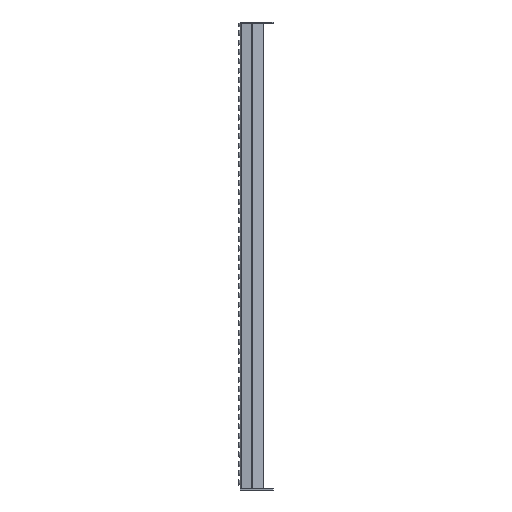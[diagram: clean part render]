
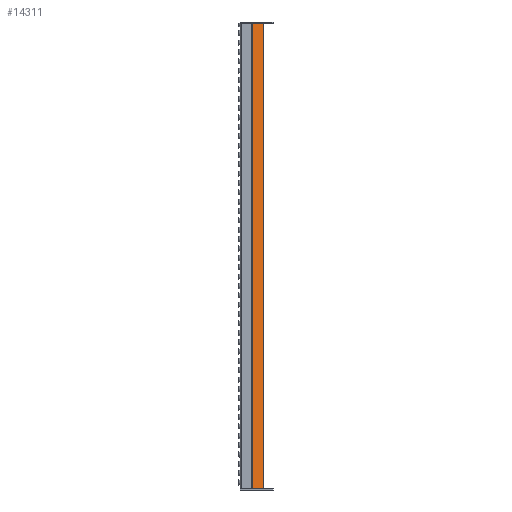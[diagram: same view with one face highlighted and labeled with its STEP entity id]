
A CAD part, left-side view. The second image highlights one B-rep face of the part: STEP entity #14311.
In plain terms, the highlighted planar face has unit normal (-0.94, -0.342, 0).
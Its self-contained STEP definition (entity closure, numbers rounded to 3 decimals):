
#2134=FACE_OUTER_BOUND('',#3285,.T.);
#3285=EDGE_LOOP('',(#12278,#12279,#12280,#12281));
#4336=LINE('',#27406,#5660);
#4355=LINE('',#27453,#5679);
#4357=LINE('',#27459,#5681);
#4361=LINE('',#27466,#5685);
#5660=VECTOR('',#19171,10.);
#5679=VECTOR('',#19214,10.);
#5681=VECTOR('',#19220,10.);
#5685=VECTOR('',#19228,10.);
#7118=VERTEX_POINT('',#27403);
#7119=VERTEX_POINT('',#27405);
#7135=VERTEX_POINT('',#27452);
#7137=VERTEX_POINT('',#27458);
#8871=EDGE_CURVE('',#7119,#7118,#4336,.T.);
#8895=EDGE_CURVE('',#7118,#7135,#4355,.T.);
#8898=EDGE_CURVE('',#7137,#7119,#4357,.T.);
#8902=EDGE_CURVE('',#7135,#7137,#4361,.T.);
#12278=ORIENTED_EDGE('',*,*,#8895,.T.);
#12279=ORIENTED_EDGE('',*,*,#8902,.T.);
#12280=ORIENTED_EDGE('',*,*,#8898,.T.);
#12281=ORIENTED_EDGE('',*,*,#8871,.T.);
#13382=PLANE('',#15792);
#14311=ADVANCED_FACE('',(#2134),#13382,.T.);
#15792=AXIS2_PLACEMENT_3D('',#27465,#19226,#19227);
#19171=DIRECTION('',(-0.342,0.94,0.));
#19214=DIRECTION('',(0.,0.,-1.));
#19220=DIRECTION('',(0.,0.,1.));
#19226=DIRECTION('center_axis',(-0.94,-0.342,0.));
#19227=DIRECTION('ref_axis',(0.,0.,1.));
#19228=DIRECTION('',(0.342,-0.94,0.));
#27403=CARTESIAN_POINT('',(0.196,-25.539,994.));
#27405=CARTESIAN_POINT('',(9.099,-50.,994.));
#27406=CARTESIAN_POINT('',(0.,-25.,994.));
#27452=CARTESIAN_POINT('',(0.196,-25.539,0.));
#27453=CARTESIAN_POINT('',(0.196,-25.539,0.));
#27458=CARTESIAN_POINT('',(9.099,-50.,0.));
#27459=CARTESIAN_POINT('',(9.099,-50.,0.));
#27465=CARTESIAN_POINT('Origin',(9.099,-50.,0.));
#27466=CARTESIAN_POINT('',(0.,-25.,0.));
